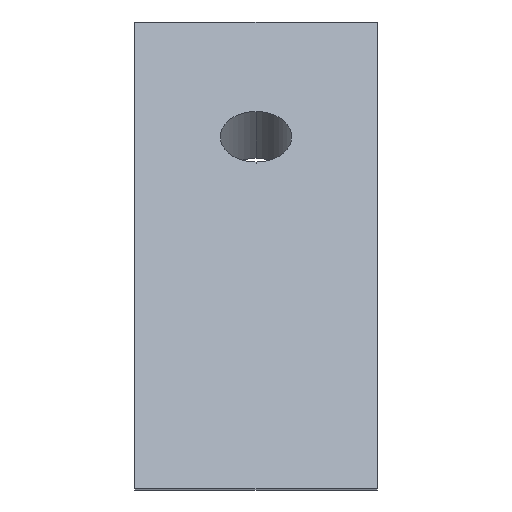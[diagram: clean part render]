
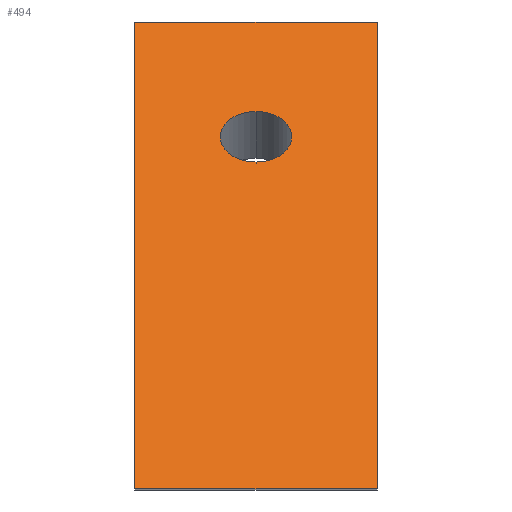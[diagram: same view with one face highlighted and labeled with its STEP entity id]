
A CAD part, top view. The second image highlights one B-rep face of the part: STEP entity #494.
In plain terms, the highlighted planar face has unit normal (0, 0.707, 0.707).
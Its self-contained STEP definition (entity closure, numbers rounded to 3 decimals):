
#2 = VERTEX_POINT ( 'NONE', #459 ) ;
#3 = VECTOR ( 'NONE', #471, 1000. ) ;
#8 = CIRCLE ( 'NONE', #56, 3.25 ) ;
#18 = DIRECTION ( 'NONE',  ( -1., 0., 0. ) ) ;
#56 = AXIS2_PLACEMENT_3D ( 'NONE', #121, #644, #320 ) ;
#65 = EDGE_CURVE ( 'NONE', #540, #426, #232, .T. ) ;
#66 = CARTESIAN_POINT ( 'NONE',  ( 22., 28.29, -3.918 ) ) ;
#70 = VECTOR ( 'NONE', #208, 1000. ) ;
#77 = AXIS2_PLACEMENT_3D ( 'NONE', #535, #202, #594 ) ;
#99 = ORIENTED_EDGE ( 'NONE', *, *, #65, .T. ) ;
#105 = ORIENTED_EDGE ( 'NONE', *, *, #233, .F. ) ;
#112 = DIRECTION ( 'NONE',  ( 0., 0.707, 0.707 ) ) ;
#121 = CARTESIAN_POINT ( 'NONE',  ( 11., 17.86, 6.512 ) ) ;
#144 = AXIS2_PLACEMENT_3D ( 'NONE', #465, #112, #514 ) ;
#145 = DIRECTION ( 'NONE',  ( 0., -0.707, 0.707 ) ) ;
#149 = PLANE ( 'NONE',  #77 ) ;
#180 = EDGE_CURVE ( 'NONE', #540, #2, #531, .T. ) ;
#202 = DIRECTION ( 'NONE',  ( 0., -0.707, -0.707 ) ) ;
#208 = DIRECTION ( 'NONE',  ( 0., -0.707, 0.707 ) ) ;
#222 = CARTESIAN_POINT ( 'NONE',  ( 11., 15.562, 8.81 ) ) ;
#232 = LINE ( 'NONE', #370, #3 ) ;
#233 = EDGE_CURVE ( 'NONE', #481, #556, #8, .T. ) ;
#272 = EDGE_CURVE ( 'NONE', #426, #708, #314, .T. ) ;
#275 = VECTOR ( 'NONE', #145, 1000. ) ;
#276 = EDGE_CURVE ( 'NONE', #556, #481, #397, .T. ) ;
#283 = ORIENTED_EDGE ( 'NONE', *, *, #272, .T. ) ;
#295 = ORIENTED_EDGE ( 'NONE', *, *, #180, .F. ) ;
#301 = VECTOR ( 'NONE', #18, 1000. ) ;
#314 = LINE ( 'NONE', #484, #275 ) ;
#320 = DIRECTION ( 'NONE',  ( 0., -0.707, 0.707 ) ) ;
#339 = ORIENTED_EDGE ( 'NONE', *, *, #546, .F. ) ;
#364 = CARTESIAN_POINT ( 'NONE',  ( 22., -14.136, 38.508 ) ) ;
#370 = CARTESIAN_POINT ( 'NONE',  ( 22., 28.29, -3.918 ) ) ;
#397 = CIRCLE ( 'NONE', #144, 3.25 ) ;
#409 = LINE ( 'NONE', #364, #301 ) ;
#426 = VERTEX_POINT ( 'NONE', #502 ) ;
#428 = CARTESIAN_POINT ( 'NONE',  ( 0., -14.136, 38.508 ) ) ;
#440 = EDGE_LOOP ( 'NONE', ( #283, #339, #295, #99 ) ) ;
#453 = FACE_BOUND ( 'NONE', #547, .T. ) ;
#459 = CARTESIAN_POINT ( 'NONE',  ( 22., -14.136, 38.508 ) ) ;
#465 = CARTESIAN_POINT ( 'NONE',  ( 11., 17.86, 6.512 ) ) ;
#471 = DIRECTION ( 'NONE',  ( -1., 0., 0. ) ) ;
#481 = VERTEX_POINT ( 'NONE', #222 ) ;
#484 = CARTESIAN_POINT ( 'NONE',  ( 0., -14.136, 38.508 ) ) ;
#494 = ADVANCED_FACE ( 'NONE', ( #453, #574 ), #149, .F. ) ;
#502 = CARTESIAN_POINT ( 'NONE',  ( 0., 28.29, -3.918 ) ) ;
#514 = DIRECTION ( 'NONE',  ( 0., -0.707, 0.707 ) ) ;
#527 = CARTESIAN_POINT ( 'NONE',  ( 22., -14.136, 38.508 ) ) ;
#531 = LINE ( 'NONE', #527, #70 ) ;
#535 = CARTESIAN_POINT ( 'NONE',  ( 22., -14.136, 38.508 ) ) ;
#540 = VERTEX_POINT ( 'NONE', #66 ) ;
#546 = EDGE_CURVE ( 'NONE', #2, #708, #409, .T. ) ;
#547 = EDGE_LOOP ( 'NONE', ( #105, #550 ) ) ;
#550 = ORIENTED_EDGE ( 'NONE', *, *, #276, .F. ) ;
#556 = VERTEX_POINT ( 'NONE', #638 ) ;
#574 = FACE_OUTER_BOUND ( 'NONE', #440, .T. ) ;
#594 = DIRECTION ( 'NONE',  ( 0., 0.707, -0.707 ) ) ;
#638 = CARTESIAN_POINT ( 'NONE',  ( 11., 20.159, 4.214 ) ) ;
#644 = DIRECTION ( 'NONE',  ( 0., 0.707, 0.707 ) ) ;
#708 = VERTEX_POINT ( 'NONE', #428 ) ;
